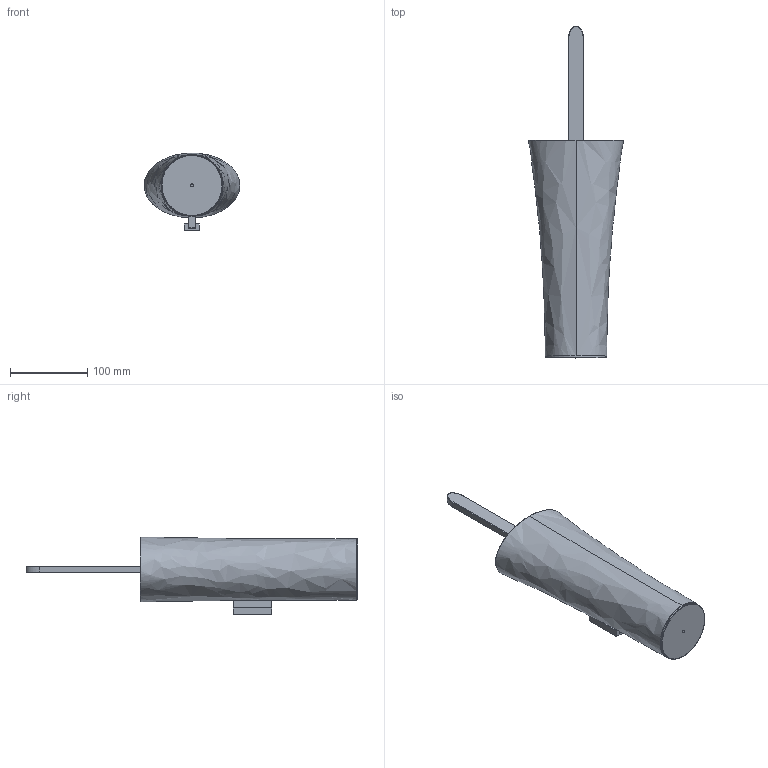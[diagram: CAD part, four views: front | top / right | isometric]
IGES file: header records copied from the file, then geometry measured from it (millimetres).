
Start section: SolidWorks IGES file using analytic representation for surfaces
Global section: file name: G:\Projects\New project\For Marketing\IGS\IGS\2015-12-25\769001318VW.IGS; native system: SolidWorks 2010; preprocessor: SolidWorks 2010; author: linda; date: 151216.135905; units: millimetre
Bounding box: 124 x 430.5 x 101 mm (x, y, z)
Surface area: 111247 mm2 (no closed solid volume)
Topology: 0 solids, 0 shells, 71 faces, 1112 edges, 1112 vertices
Faces by surface type: bspline 45, revolution 26
